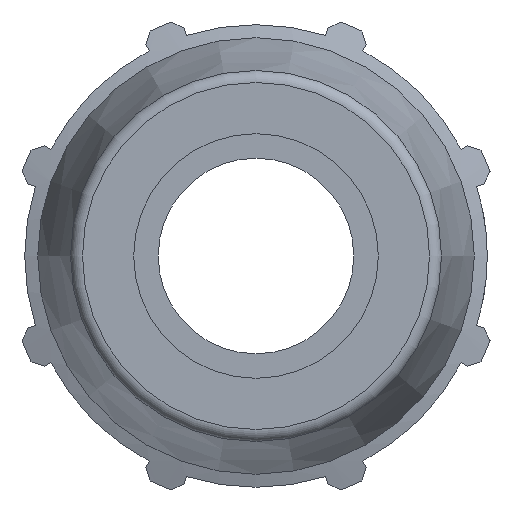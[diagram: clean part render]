
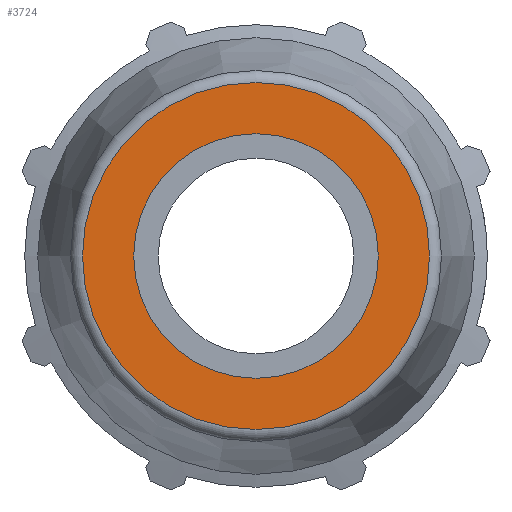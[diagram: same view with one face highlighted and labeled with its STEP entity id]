
A CAD part, left-side view. The second image highlights one B-rep face of the part: STEP entity #3724.
In plain terms, the highlighted planar face has unit normal (-1, 0, 0).
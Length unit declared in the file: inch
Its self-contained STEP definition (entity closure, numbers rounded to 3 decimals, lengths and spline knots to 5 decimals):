
#135=FACE_BOUND('',#500,.T.);
#183=PLANE('',#3985);
#305=FACE_OUTER_BOUND('',#499,.T.);
#499=EDGE_LOOP('',(#2640,#2641));
#500=EDGE_LOOP('',(#2642,#2643));
#759=CIRCLE('',#3982,0.74303);
#760=CIRCLE('',#3983,0.74303);
#762=CIRCLE('',#3986,0.52362);
#763=CIRCLE('',#3987,0.52362);
#1537=VERTEX_POINT('',#5663);
#1538=VERTEX_POINT('',#5665);
#1539=VERTEX_POINT('',#5670);
#1540=VERTEX_POINT('',#5671);
#1967=EDGE_CURVE('',#1537,#1538,#759,.T.);
#1968=EDGE_CURVE('',#1538,#1537,#760,.T.);
#1970=EDGE_CURVE('',#1539,#1540,#762,.T.);
#1971=EDGE_CURVE('',#1540,#1539,#763,.T.);
#2640=ORIENTED_EDGE('',*,*,#1968,.F.);
#2641=ORIENTED_EDGE('',*,*,#1967,.F.);
#2642=ORIENTED_EDGE('',*,*,#1970,.T.);
#2643=ORIENTED_EDGE('',*,*,#1971,.T.);
#3724=ADVANCED_FACE('',(#305,#135),#183,.T.);
#3982=AXIS2_PLACEMENT_3D('',#5666,#4550,#4551);
#3983=AXIS2_PLACEMENT_3D('',#5667,#4552,#4553);
#3985=AXIS2_PLACEMENT_3D('',#5669,#4556,#4557);
#3986=AXIS2_PLACEMENT_3D('',#5672,#4558,#4559);
#3987=AXIS2_PLACEMENT_3D('',#5673,#4560,#4561);
#4550=DIRECTION('center_axis',(1.,0.,0.));
#4551=DIRECTION('ref_axis',(0.,-1.,0.));
#4552=DIRECTION('center_axis',(1.,0.,0.));
#4553=DIRECTION('ref_axis',(0.,-1.,0.));
#4556=DIRECTION('center_axis',(-1.,0.,0.));
#4557=DIRECTION('ref_axis',(0.,0.,1.));
#4558=DIRECTION('center_axis',(1.,0.,0.));
#4559=DIRECTION('ref_axis',(0.,0.,-1.));
#4560=DIRECTION('center_axis',(1.,0.,0.));
#4561=DIRECTION('ref_axis',(0.,0.,-1.));
#5663=CARTESIAN_POINT('',(-2.46,0.,0.74303));
#5665=CARTESIAN_POINT('',(-2.46,0.74303,0.));
#5666=CARTESIAN_POINT('Origin',(-2.46,0.,0.));
#5667=CARTESIAN_POINT('Origin',(-2.46,0.,0.));
#5669=CARTESIAN_POINT('Origin',(-2.46,0.78543,0.));
#5670=CARTESIAN_POINT('',(-2.46,0.52362,0.));
#5671=CARTESIAN_POINT('',(-2.46,-0.52362,0.));
#5672=CARTESIAN_POINT('Origin',(-2.46,0.,0.));
#5673=CARTESIAN_POINT('Origin',(-2.46,0.,0.));
